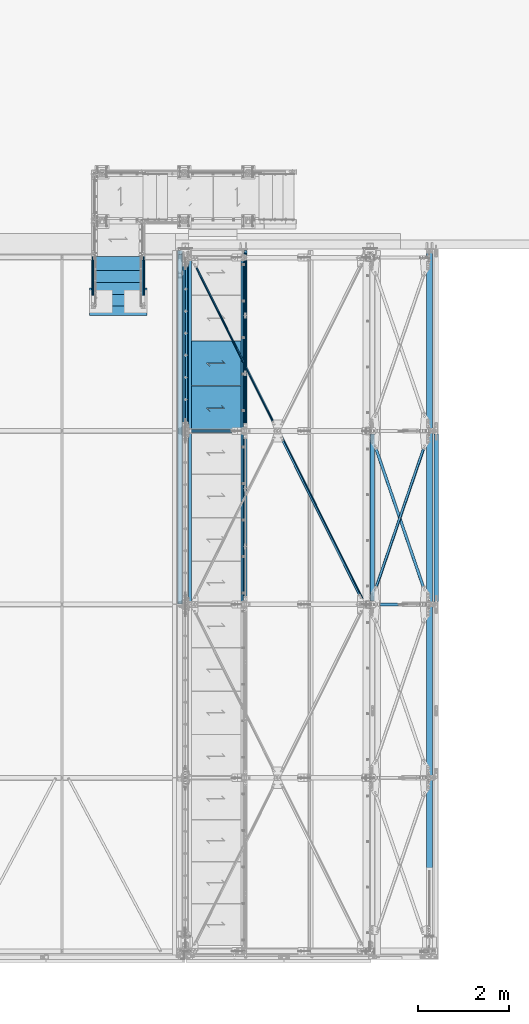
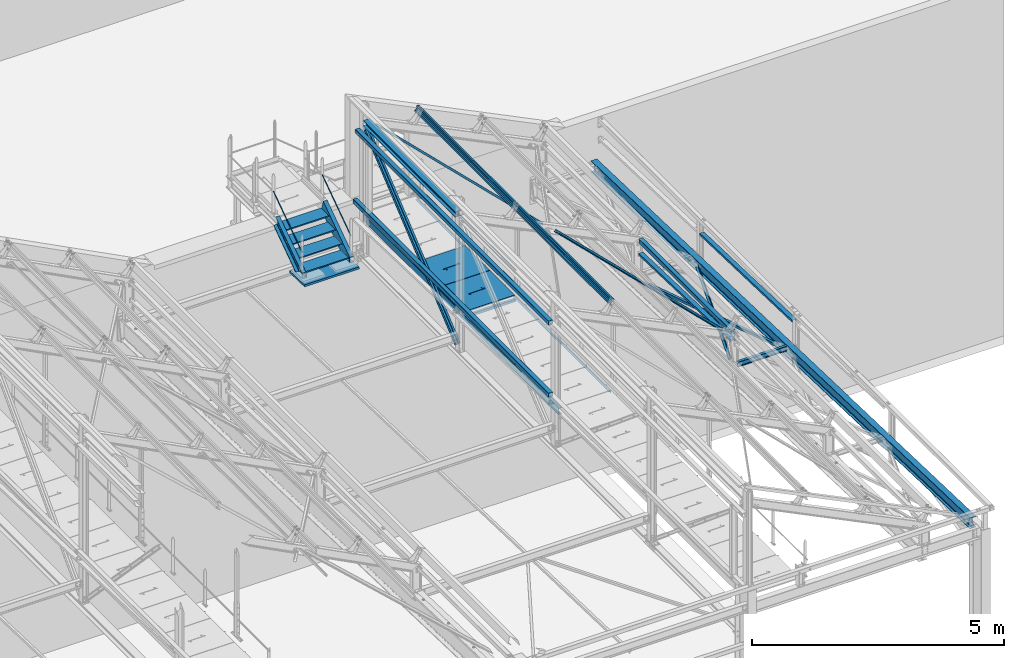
# One storey, part 57 of 362: 24 beams, 6 members, 30 elements without a shape of their own.
"""IFC2X3 building model written with IfcOpenShell, lengths in millimetres."""

from ifc_helpers import new_model, si_unit, frame, origin_with_axes, origin_2d_with_axis, place, context, subcontext, project, spatial, polyline, rectangle, hollow_rectangle, hollow_circle, i_section, l_section, u_section, outline, extrude, boolean, clip, halfspace, material, type_object, element, aggregate, save


model = new_model("IFC2X3")

# Units and contexts
model_context = context("Model", 3, precision=1e-05, world=origin_with_axes())
body_context = subcontext(model_context, "Body", "Model", "MODEL_VIEW")
ifc_project = project(units=[si_unit("LENGTHUNIT", "METRE", prefix="MILLI"), si_unit("AREAUNIT", "SQUARE_METRE"), si_unit("VOLUMEUNIT", "CUBIC_METRE"), si_unit("MASSUNIT", "GRAM", prefix="KILO"), si_unit("TIMEUNIT", "SECOND"), si_unit("PLANEANGLEUNIT", "RADIAN"), si_unit("SOLIDANGLEUNIT", "STERADIAN"), si_unit("THERMODYNAMICTEMPERATUREUNIT", "DEGREE_CELSIUS"), si_unit("LUMINOUSINTENSITYUNIT", "LUMEN")], contexts=[model_context])

# Site, building, storey
site_placement = place(None, origin_with_axes())
site = spatial("IfcSite", under=ifc_project, at=site_placement, Name="Undefined", CompositionType="ELEMENT")
building_placement = place(site_placement, origin_with_axes())
building = spatial("IfcBuilding", under=site, at=building_placement, Name="Undefined", CompositionType="ELEMENT")
storey_placement = place(building_placement, origin_with_axes())
storey = spatial("IfcBuildingStorey", under=building, at=storey_placement, Name="Undefined", CompositionType="ELEMENT", Elevation=0.0)

# Assembly, member
assembly_1_placement = place(storey_placement, origin_with_axes())
assembly_1 = element("IfcElementAssembly", 1, at=assembly_1_placement, inside=storey, Name="MAIN COURANTE", AssemblyPlace="NOTDEFINED", PredefinedType="NOTDEFINED")
ifc_material_1 = material(Name="Undefined/S235-E24")
member_type_1 = type_object("IfcMemberType", Name="TUBE-21.3*2", PredefinedType="NOTDEFINED")
member_1_placement = place(assembly_1_placement, frame((33369.9936634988, 14144.9998536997, 8651.13839395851), z_axis=(0.999999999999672, -6.66011674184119e-07, -4.61008081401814e-07), x_axis=(0.0, 0.822192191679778, 0.56920997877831)))
member_1 = element("IfcMember", 2, at=member_1_placement, type_object=member_type_1, material=ifc_material_1, Name="LISSE", ObjectType="TUBE-21.3*2", context=body_context, shape_type="Clipping", body=[
    clip(clip(extrude(hollow_circle(Radius=10.64999962, WallThickness=2.0, at=origin_2d_with_axis()), frame((1395.35433691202, -1.13686837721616e-12, 7.38694435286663e-20), z_axis=(-1.0, 0.0, 0.0), x_axis=(0.0, -1.0, 0.0)), (0.0, 0.0, 1.0), 1404.17), halfspace(frame((1387.78549896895, 10.5802584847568, -0.00112410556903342), z_axis=(-0.822192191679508, 0.569209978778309, 6.66011673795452e-07), x_axis=(-0.569209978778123, -0.822192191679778, 4.61008086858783e-07)), True)), halfspace(frame((16.4615054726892, 14.9935154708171, -1.33328576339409e-05), z_axis=(0.822192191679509, -0.569209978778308, -6.66011673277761e-07), x_axis=(0.0, 0.0, -1.0)), True)),
])
aggregate(assembly_1, [member_1])

assembly_2_placement = place(storey_placement, origin_with_axes())
assembly_2 = element("IfcElementAssembly", 3, at=assembly_2_placement, inside=storey, Name="MAIN COURANTE", AssemblyPlace="NOTDEFINED", PredefinedType="NOTDEFINED")
member_2_placement = place(assembly_2_placement, frame((32249.9863365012, 14144.9998536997, 8651.13839395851), z_axis=(-0.999999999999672, -6.66011674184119e-07, -4.61008081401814e-07), x_axis=(0.0, 0.822192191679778, 0.56920997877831)))
member_2 = element("IfcMember", 4, at=member_2_placement, type_object=member_type_1, material=ifc_material_1, Name="LISSE", ObjectType="TUBE-21.3*2", context=body_context, shape_type="Clipping", body=[
    clip(clip(extrude(hollow_circle(Radius=10.64999962, WallThickness=2.0, at=origin_2d_with_axis()), frame((1395.35433691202, -1.13686837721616e-12, 7.38694435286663e-20), z_axis=(-1.0, 0.0, 0.0), x_axis=(0.0, -1.0, 0.0)), (0.0, 0.0, 1.0), 1404.17), halfspace(frame((1387.78549896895, -10.5802584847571, -0.00112410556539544), z_axis=(-0.822192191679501, -0.569209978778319, 6.66011673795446e-07), x_axis=(0.0, 0.0, -1.0)), True)), halfspace(frame((16.4615054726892, -14.9935154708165, -1.33328503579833e-05), z_axis=(0.822192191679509, 0.569209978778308, -6.6601167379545e-07), x_axis=(-0.569209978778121, 0.822192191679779, 4.61008079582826e-07)), True)),
])
aggregate(assembly_2, [member_2])

# Assembly, beam
assembly_3_placement = place(storey_placement, origin_with_axes())
assembly_3 = element("IfcElementAssembly", 5, at=assembly_3_placement, inside=storey, Name="SUPPORT", AssemblyPlace="NOTDEFINED", PredefinedType="NOTDEFINED")
beam_type_1 = type_object("IfcBeamType", Name="L50*5", PredefinedType="NOTDEFINED")
beam_1_placement = place(assembly_3_placement, frame((35521.4917140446, 15280.0000894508, 8074.99999999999), z_axis=(-1.0, 0.0, 0.0), x_axis=(0.0, -1.0, 0.0)))
beam_1 = element("IfcBeam", 6, at=beam_1_placement, type_object=beam_type_1, material=ifc_material_1, Name="SUPPORT", ObjectType="L50*5", context=body_context, shape_type="SweptSolid", body=[
    extrude(l_section(Depth=50.0, Width=50.0, Thickness=5.0, FilletRadius=7.0, EdgeRadius=3.5, at=origin_2d_with_axis()), frame((7675.0000889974, 0.0, 0.0), z_axis=(-1.0, 0.0, 0.0), x_axis=(0.0, -1.0, 0.0)), (0.0, 0.0, 1.0), 7675.0),
])
aggregate(assembly_3, [beam_1])

assembly_4_placement = place(storey_placement, origin_with_axes())
assembly_4 = element("IfcElementAssembly", 7, at=assembly_4_placement, inside=storey, AssemblyPlace="NOTDEFINED", PredefinedType="NOTDEFINED")
beam_2_placement = place(assembly_4_placement, frame((36317.9926938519, 11401.2120833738, 9504.82868148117), z_axis=(0.44122107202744, 0.0, 0.89739844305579), x_axis=(0.435090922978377, -0.874605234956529, -0.213919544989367)))
beam_2 = element("IfcBeam", 8, at=beam_2_placement, type_object=beam_type_1, material=ifc_material_1, Name="STABILITE CVT", ObjectType="L50*5", context=body_context, shape_type="Clipping", body=[
    clip(clip(extrude(l_section(Depth=50.0, Width=50.0, Thickness=5.0, FilletRadius=7.0, EdgeRadius=3.5, at=origin_2d_with_axis()), frame((4267.3908831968, 5.92219451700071e-14, 0.0), z_axis=(-1.0, 0.0, 0.0), x_axis=(0.0, -1.0, 0.0)), (0.0, 0.0, 1.0), 4189.97), halfspace(frame((4208.92568695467, -25.0001615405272, -24.9987599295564), z_axis=(-1.0, 0.0, 0.0), x_axis=(0.0, 1.0, 0.0)), True)), halfspace(frame((135.890671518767, 25.0000024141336, -24.9993826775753), z_axis=(-1.0, 0.0, 0.0), x_axis=(0.0, 0.0, 1.0)), False)),
])
aggregate(assembly_4, [beam_2])

assembly_5_placement = place(storey_placement, origin_with_axes())
assembly_5 = element("IfcElementAssembly", 9, at=assembly_5_placement, inside=storey, AssemblyPlace="NOTDEFINED", PredefinedType="NOTDEFINED")
beam_3_placement = place(assembly_5_placement, frame((34423.6781424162, 15198.7879095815, 10436.2000511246), z_axis=(0.784869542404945, 0.484835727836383, -0.385893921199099), x_axis=(0.435090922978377, -0.874605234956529, -0.213919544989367)))
beam_3 = element("IfcBeam", 10, at=beam_3_placement, type_object=beam_type_1, material=ifc_material_1, Name="STABILITE CVT", ObjectType="L50*5", context=body_context, shape_type="Clipping", body=[
    clip(clip(extrude(l_section(Depth=50.0, Width=50.0, Thickness=5.0, FilletRadius=7.0, EdgeRadius=3.5, at=origin_2d_with_axis()), frame((4262.41802207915, -1.18305865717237e-13, 3.54917597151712e-13), z_axis=(-1.0, 0.0, 0.0), x_axis=(0.0, -1.0, 0.0)), (0.0, 0.0, 1.0), 4180.02), halfspace(frame((4208.92600506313, 24.999422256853, 25.0000000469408), z_axis=(-1.0, 0.0, 0.0), x_axis=(0.0, -1.0, 0.0)), True)), halfspace(frame((135.890867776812, 25.0000450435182, 25.0002856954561), z_axis=(1.0, 0.0, 0.0), x_axis=(0.0, 0.0, -1.0)), True)),
])
aggregate(assembly_5, [beam_3])

# Assembly, member
assembly_6_placement = place(storey_placement, origin_with_axes())
assembly_6 = element("IfcElementAssembly", 11, at=assembly_6_placement, inside=storey, AssemblyPlace="NOTDEFINED", PredefinedType="NOTDEFINED")
ifc_material_2 = material(Name="Undefined/S275-E28")
member_type_2 = type_object("IfcMemberType", Name="UPN260", PredefinedType="NOTDEFINED")
member_3_placement = place(assembly_6_placement, frame((33354.9957050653, 15220.1081967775, 8803.11488296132), z_axis=(-2.38199999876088e-06, 0.569209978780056, -0.822192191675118), x_axis=(-1.71699999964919e-06, -0.822192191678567, -0.569209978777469)))
member_3 = element("IfcMember", 12, at=member_3_placement, type_object=member_type_2, material=ifc_material_2, Name="LIMON", ObjectType="UPN260", context=body_context, shape_type="Clipping", body=[
    clip(clip(clip(extrude(u_section(Depth=260.0, FlangeWidth=90.0, WebThickness=10.0, FlangeThickness=14.0, FilletRadius=14.0, EdgeRadius=7.0, FlangeSlope=0.0798299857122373, at=origin_2d_with_axis()), frame((1532.05974941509, 3.24426271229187e-19, 1.50656932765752e-12), z_axis=(-1.0, 0.0, 0.0), x_axis=(0.0, -1.0, 0.0)), (0.0, 0.0, 1.0), 1652.65), halfspace(frame((1475.10561376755, -44.9999999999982, -130.0), z_axis=(0.594754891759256, -2.93590080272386e-06, 0.803907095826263), x_axis=(-0.803907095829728, -3.97667463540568e-10, 0.594754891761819)), False)), halfspace(frame((1280.85769771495, 106.407624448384, -129.999853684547), z_axis=(-0.822192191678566, 5.58458236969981e-08, 0.569209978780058), x_axis=(0.569209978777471, -2.93579533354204e-06, 0.822192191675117)), True)), halfspace(frame((81.2187427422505, 545.001446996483, 130.001191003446), z_axis=(0.954513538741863, -9.28664575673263e-07, -0.298167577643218), x_axis=(1.71699999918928e-06, 0.999999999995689, 2.38199999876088e-06)), True)),
])
aggregate(assembly_6, [member_3])

assembly_7_placement = place(storey_placement, origin_with_axes())
assembly_7 = element("IfcElementAssembly", 13, at=assembly_7_placement, inside=storey, AssemblyPlace="NOTDEFINED", PredefinedType="NOTDEFINED")
member_4_placement = place(assembly_7_placement, frame((32265.0064946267, 14166.9970857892, 8074.0379599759), z_axis=(2.38199999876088e-06, 0.569209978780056, -0.822192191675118), x_axis=(-1.7169999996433e-06, 0.822192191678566, 0.56920997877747)))
member_4 = element("IfcMember", 14, at=member_4_placement, type_object=member_type_2, material=ifc_material_2, Name="LIMON", ObjectType="UPN260", context=body_context, shape_type="Clipping", body=[
    clip(clip(clip(extrude(u_section(Depth=260.0, FlangeWidth=90.0, WebThickness=10.0, FlangeThickness=14.0, FilletRadius=14.0, EdgeRadius=7.0, FlangeSlope=0.0798299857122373, at=origin_2d_with_axis()), frame((1401.45085429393, -1.81898940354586e-12, 2.27373675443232e-13), z_axis=(-1.0, 0.0, 0.0), x_axis=(0.0, -1.0, 0.0)), (0.0, 0.0, 1.0), 1652.65), halfspace(frame((-194.248465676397, 44.9999999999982, -130.0), z_axis=(-0.594754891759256, -2.93590079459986e-06, 0.803907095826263), x_axis=(0.803907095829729, -3.97667463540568e-10, 0.594754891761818)), False)), halfspace(frame((1199.63884956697, 544.98906444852, 130.001190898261), z_axis=(-0.954513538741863, -9.28664579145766e-07, -0.298167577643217), x_axis=(1.71700000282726e-06, -0.999999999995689, -2.38199999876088e-06)), True)), halfspace(frame((-0.000105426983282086, 106.407623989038, -129.999853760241), z_axis=(0.822192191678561, 5.58458236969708e-08, 0.569209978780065), x_axis=(1.71700000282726e-06, -0.999999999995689, -2.38199999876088e-06)), True)),
])
aggregate(assembly_7, [member_4])

# Assembly, beam
assembly_8_placement = place(storey_placement, origin_with_axes())
assembly_8 = element("IfcElementAssembly", 15, at=assembly_8_placement, inside=storey, Name="Steel Assembly", AssemblyPlace="NOTDEFINED", PredefinedType="NOTDEFINED")
ifc_material_3 = material(Name="MISCELLANEOUS/POLYURETHANE")
beam_type_2 = type_object("IfcBeamType", Name="PL50*1250", PredefinedType="NOTDEFINED")
beam_4_placement = place(assembly_8_placement, frame((32809.9947340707, 14532.1706378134, 7968.49328384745), z_axis=(-1.0, 0.0, 0.0), x_axis=(0.0, -0.999506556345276, 0.031410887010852)))
beam_4 = element("IfcBeam", 16, at=beam_4_placement, type_object=beam_type_2, material=ifc_material_3, Name="STYRODUR", ObjectType="PL50*1250", context=body_context, shape_type="SweptSolid", body=[
    extrude(rectangle(XDim=50.0, YDim=1250.0, at=origin_2d_with_axis()), frame((600.000000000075, -4.16333634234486e-15, 0.0), z_axis=(-1.0, 0.0, 0.0), x_axis=(0.0, -1.0, 0.0)), (0.0, 0.0, 1.0), 600.0),
])
aggregate(assembly_8, [beam_4])

assembly_9_placement = place(storey_placement, origin_with_axes())
assembly_9 = element("IfcElementAssembly", 17, at=assembly_9_placement, inside=storey, Name="MARCHE", AssemblyPlace="NOTDEFINED", PredefinedType="NOTDEFINED")
beam_type_3 = type_object("IfcBeamType", Name="PL30*994", PredefinedType="NOTDEFINED")
beam_5_placement = place(assembly_9_placement, frame((32809.9938089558, 14444.9997910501, 8145.0000000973), z_axis=(-1.0, 0.0, 0.0), x_axis=(0.0, -1.0, 0.0)))
beam_5 = element("IfcBeam", 18, at=beam_5_placement, type_object=beam_type_3, material=ifc_material_1, Name="MARCHE", ObjectType="PL30*994", context=body_context, shape_type="SweptSolid", body=[
    extrude(rectangle(XDim=30.0, YDim=994.0, at=origin_2d_with_axis()), frame((310.0, 0.0, 0.0), z_axis=(-1.0, 0.0, 0.0), x_axis=(0.0, -1.0, 0.0)), (0.0, 0.0, 1.0), 310.0),
])
aggregate(assembly_9, [beam_5])

assembly_10_placement = place(storey_placement, origin_with_axes())
assembly_10 = element("IfcElementAssembly", 19, at=assembly_10_placement, inside=storey, Name="MARCHE", AssemblyPlace="NOTDEFINED", PredefinedType="NOTDEFINED")
beam_6_placement = place(assembly_10_placement, frame((32809.9938089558, 14704.9997910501, 8325.00000007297), z_axis=(-1.0, 0.0, 0.0), x_axis=(0.0, -1.0, 0.0)))
beam_6 = element("IfcBeam", 20, at=beam_6_placement, type_object=beam_type_3, material=ifc_material_1, Name="MARCHE", ObjectType="PL30*994", context=body_context, shape_type="SweptSolid", body=[
    extrude(rectangle(XDim=30.0, YDim=994.0, at=origin_2d_with_axis()), frame((310.0, 0.0, 0.0), z_axis=(-1.0, 0.0, 0.0), x_axis=(0.0, -1.0, 0.0)), (0.0, 0.0, 1.0), 310.0),
])
aggregate(assembly_10, [beam_6])

assembly_11_placement = place(storey_placement, origin_with_axes())
assembly_11 = element("IfcElementAssembly", 21, at=assembly_11_placement, inside=storey, Name="MARCHE", AssemblyPlace="NOTDEFINED", PredefinedType="NOTDEFINED")
beam_7_placement = place(assembly_11_placement, frame((32809.9938089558, 14964.9997910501, 8505.00000004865), z_axis=(-1.0, 0.0, 0.0), x_axis=(0.0, -1.0, 0.0)))
beam_7 = element("IfcBeam", 22, at=beam_7_placement, type_object=beam_type_3, material=ifc_material_1, Name="MARCHE", ObjectType="PL30*994", context=body_context, shape_type="SweptSolid", body=[
    extrude(rectangle(XDim=30.0, YDim=994.0, at=origin_2d_with_axis()), frame((310.0, 0.0, 0.0), z_axis=(-1.0, 0.0, 0.0), x_axis=(0.0, -1.0, 0.0)), (0.0, 0.0, 1.0), 310.0),
])
aggregate(assembly_11, [beam_7])

assembly_12_placement = place(storey_placement, origin_with_axes())
assembly_12 = element("IfcElementAssembly", 23, at=assembly_12_placement, inside=storey, Name="MARCHE", AssemblyPlace="NOTDEFINED", PredefinedType="NOTDEFINED")
beam_8_placement = place(assembly_12_placement, frame((32809.9938089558, 15224.9997910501, 8685.0), z_axis=(-1.0, 0.0, 0.0), x_axis=(0.0, -1.0, 0.0)))
beam_8 = element("IfcBeam", 24, at=beam_8_placement, type_object=beam_type_3, material=ifc_material_1, Name="MARCHE", ObjectType="PL30*994", context=body_context, shape_type="SweptSolid", body=[
    extrude(rectangle(XDim=30.0, YDim=994.0, at=origin_2d_with_axis()), frame((310.0, 0.0, 0.0), z_axis=(-1.0, 0.0, 0.0), x_axis=(0.0, -1.0, 0.0)), (0.0, 0.0, 1.0), 310.0),
])
aggregate(assembly_12, [beam_8])

assembly_13_placement = place(storey_placement, origin_with_axes())
assembly_13 = element("IfcElementAssembly", 25, at=assembly_13_placement, inside=storey, AssemblyPlace="NOTDEFINED", PredefinedType="NOTDEFINED")
beam_type_4 = type_object("IfcBeamType", Name="L60*6", PredefinedType="NOTDEFINED")
beam_9_placement = place(assembly_13_placement, frame((39627.1613893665, 7596.0134115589, 7655.20904241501), z_axis=(0.946212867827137, 0.323385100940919, -0.0101629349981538), x_axis=(-0.323544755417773, 0.945745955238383, -0.0297216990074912)))
beam_9 = element("IfcBeam", 26, at=beam_9_placement, type_object=beam_type_4, material=ifc_material_1, Name="STABILITE CVT", ObjectType="L60*6", context=body_context, shape_type="Clipping", body=[
    clip(clip(extrude(l_section(Depth=60.0, Width=60.0, Thickness=6.0, FilletRadius=8.0, EdgeRadius=4.0, at=origin_2d_with_axis()), frame((3750.95319410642, 9.35522168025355e-13, 7.53643561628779e-12), z_axis=(-1.0, 0.0, 0.0), x_axis=(0.0, -1.0, 0.0)), (0.0, 0.0, 1.0), 3483.91), halfspace(frame((3710.26468355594, 60.0022534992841, -30.0000080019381), z_axis=(-1.0, 0.0, 0.0), x_axis=(0.0, 1.0, 0.0)), True)), halfspace(frame((307.727514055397, 59.9989420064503, 29.9999672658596), z_axis=(1.0, 0.0, 0.0), x_axis=(0.0, 1.0, 0.0)), True)),
])
aggregate(assembly_13, [beam_9])

assembly_14_placement = place(storey_placement, origin_with_axes())
assembly_14 = element("IfcElementAssembly", 27, at=assembly_14_placement, inside=storey, AssemblyPlace="NOTDEFINED", PredefinedType="NOTDEFINED")
beam_10_placement = place(assembly_14_placement, frame((38332.8386386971, 7598.08651945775, 7721.17641887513), z_axis=(-0.946212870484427, 0.323385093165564, -0.0101629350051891), x_axis=(0.32354466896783, 0.945745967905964, -0.0297222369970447)))
beam_10 = element("IfcBeam", 28, at=beam_10_placement, type_object=beam_type_4, material=ifc_material_1, Name="STABILITE CVT", ObjectType="L60*6", context=body_context, shape_type="Clipping", body=[
    clip(clip(extrude(l_section(Depth=60.0, Width=60.0, Thickness=6.0, FilletRadius=8.0, EdgeRadius=4.0, at=origin_2d_with_axis()), frame((3749.34946230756, -1.81898940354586e-12, 7.25807138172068e-12), z_axis=(-1.0, 0.0, 0.0), x_axis=(0.0, -1.0, 0.0)), (0.0, 0.0, 1.0), 3480.71), halfspace(frame((3710.26467476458, -60.0022405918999, -30.0000246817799), z_axis=(1.0, 0.0, 0.0), x_axis=(-8.13000000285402e-07, -0.999999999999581, 4.20999999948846e-07)), False)), halfspace(frame((307.727505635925, -59.9989526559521, 29.9999720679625), z_axis=(-1.0, 0.0, 0.0), x_axis=(-8.13000000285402e-07, -0.999999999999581, 4.20999999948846e-07)), False)),
])
aggregate(assembly_14, [beam_10])

assembly_15_placement = place(storey_placement, origin_with_axes())
assembly_15 = element("IfcElementAssembly", 29, at=assembly_15_placement, inside=storey, Name="LISSE", AssemblyPlace="NOTDEFINED", PredefinedType="NOTDEFINED")
beam_type_5 = type_object("IfcBeamType", Name="UPF-100*50*4", PredefinedType="NOTDEFINED")
beam_11_placement = place(assembly_15_placement, frame((38380.0000000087, 7600.0, 8291.42237510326), z_axis=(1.0, 0.0, 0.0), x_axis=(0.0, 0.99950644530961, -0.0314144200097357)))
beam_11 = element("IfcBeam", 30, at=beam_11_placement, type_object=beam_type_5, material=ifc_material_1, Name="LISSE CONTREBARDAGE", ObjectType="UPF-100*50*4", context=body_context, shape_type="Clipping", body=[
    clip(clip(extrude(u_section(Depth=100.0, FlangeWidth=50.0, WebThickness=4.0, FlangeThickness=4.0, at=origin_2d_with_axis()), frame((3738.43154409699, 2.59405798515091e-14, 0.0), z_axis=(-1.0, 0.0, 0.0), x_axis=(0.0, -1.0, 0.0)), (0.0, 0.0, 1.0), 3674.99), halfspace(frame((3731.98221168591, 154.697322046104, 49.9999999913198), z_axis=(-0.999506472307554, -0.0314135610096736, 0.0), x_axis=(0.0, 0.0, 1.0)), True)), halfspace(frame((63.7935542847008, 39.4064997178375, 49.9999999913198), z_axis=(-0.999506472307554, -0.0314135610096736, 0.0), x_axis=(0.0, 0.0, 1.0)), False)),
])
aggregate(assembly_15, [beam_11])

assembly_16_placement = place(storey_placement, origin_with_axes())
assembly_16 = element("IfcElementAssembly", 31, at=assembly_16_placement, inside=storey, Name="LISSE", AssemblyPlace="NOTDEFINED", PredefinedType="NOTDEFINED")
beam_12_placement = place(assembly_16_placement, frame((39775.0000000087, 7599.20357783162, 8291.42237510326), z_axis=(1.0, 0.0, 0.0), x_axis=(3.14103090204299e-11, 0.999506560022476, -0.0314107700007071)))
beam_12 = element("IfcBeam", 32, at=beam_12_placement, type_object=beam_type_5, material=ifc_material_1, Name="LISSE CONTREBARDAGE", ObjectType="UPF-100*50*4", context=body_context, shape_type="Clipping", body=[
    clip(clip(extrude(u_section(Depth=100.0, FlangeWidth=50.0, WebThickness=4.0, FlangeThickness=4.0, at=origin_2d_with_axis()), frame((3739.22774866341, 0.0, 0.0), z_axis=(-1.0, 0.0, 0.0), x_axis=(0.0, -1.0, 0.0)), (0.0, 0.0, 1.0), 3674.99), halfspace(frame((3732.77880328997, 154.708769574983, 49.9999999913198), z_axis=(-0.999506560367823, -0.0314107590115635, 0.0), x_axis=(0.0, 0.0, 1.0)), True)), halfspace(frame((64.5897267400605, 39.4312840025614, 49.9999999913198), z_axis=(-0.999506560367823, -0.0314107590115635, 0.0), x_axis=(0.0, 0.0, 1.0)), False)),
])
aggregate(assembly_16, [beam_12])

assembly_17_placement = place(storey_placement, origin_with_axes())
assembly_17 = element("IfcElementAssembly", 33, at=assembly_17_placement, inside=storey, Name="LISSE", AssemblyPlace="NOTDEFINED", PredefinedType="NOTDEFINED")
beam_type_6 = type_object("IfcBeamType", Name="TUBE-C-100*100*4", PredefinedType="NOTDEFINED")
beam_13_placement = place(assembly_17_placement, frame((34163.5000004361, 7604.99999901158, 10244.999999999), z_axis=(0.0, 0.0, -1.0), x_axis=(0.0, 1.0, 0.0)))
beam_13 = element("IfcBeam", 34, at=beam_13_placement, type_object=beam_type_6, material=ifc_material_1, Name="LISSE ACROTERE", ObjectType="TUBE-C-100*100*4", context=body_context, shape_type="SweptSolid", body=[
    extrude(hollow_rectangle(XDim=100.0, YDim=100.0, WallThickness=4.0, InnerFilletRadius=4.0, OuterFilletRadius=8.0, at=origin_2d_with_axis()), frame((7664.99999999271, 0.0, 0.0), z_axis=(-1.0, 0.0, 0.0), x_axis=(0.0, -1.0, 0.0)), (0.0, 0.0, 1.0), 7665.0),
])
aggregate(assembly_17, [beam_13])

assembly_18_placement = place(storey_placement, origin_with_axes())
assembly_18 = element("IfcElementAssembly", 35, at=assembly_18_placement, inside=storey, Name="LISSE", AssemblyPlace="NOTDEFINED", PredefinedType="NOTDEFINED")
beam_14_placement = place(assembly_18_placement, frame((34163.5, 7605.0, 8500.0), z_axis=(0.0, 0.0, 1.0), x_axis=(0.0, 1.0, 0.0)))
beam_14 = element("IfcBeam", 36, at=beam_14_placement, type_object=beam_type_6, material=ifc_material_1, Name="LISSE ACROTERE", ObjectType="TUBE-C-100*100*4", context=body_context, shape_type="SweptSolid", body=[
    extrude(hollow_rectangle(XDim=100.0, YDim=100.0, WallThickness=4.0, InnerFilletRadius=4.0, OuterFilletRadius=8.0, at=origin_2d_with_axis()), frame((7755.0, 0.0, 0.0), z_axis=(-1.0, 0.0, 0.0), x_axis=(0.0, -1.0, 0.0)), (0.0, 0.0, 1.0), 7755.0),
])
aggregate(assembly_18, [beam_14])

assembly_19_placement = place(storey_placement, origin_with_axes())
assembly_19 = element("IfcElementAssembly", 37, at=assembly_19_placement, inside=storey, Name="LISSE", AssemblyPlace="NOTDEFINED", PredefinedType="NOTDEFINED")
beam_15_placement = place(assembly_19_placement, frame((38380.0, 7670.0, 8500.0), z_axis=(0.0, 0.0, 1.0), x_axis=(0.0, 1.0, 0.0)))
beam_15 = element("IfcBeam", 38, at=beam_15_placement, type_object=beam_type_6, material=ifc_material_1, Name="LISSE ACROTERE", ObjectType="TUBE-C-100*100*4", context=body_context, shape_type="SweptSolid", body=[
    extrude(hollow_rectangle(XDim=100.0, YDim=100.0, WallThickness=4.0, InnerFilletRadius=4.0, OuterFilletRadius=8.0, at=origin_2d_with_axis()), frame((3660.0, 0.0, 0.0), z_axis=(-1.0, 0.0, 0.0), x_axis=(0.0, -1.0, 0.0)), (0.0, 0.0, 1.0), 3660.0),
])
aggregate(assembly_19, [beam_15])

assembly_20_placement = place(storey_placement, origin_with_axes())
assembly_20 = element("IfcElementAssembly", 39, at=assembly_20_placement, inside=storey, AssemblyPlace="NOTDEFINED", PredefinedType="NOTDEFINED")
beam_type_7 = type_object("IfcBeamType", Name="TOLE30*980", PredefinedType="NOTDEFINED")
beam_16_placement = place(assembly_20_placement, frame((35536.4915949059, 13375.0003144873, 8115.0), z_axis=(0.0, 0.0, 1.0), x_axis=(-1.0, 0.0, 0.0)))
beam_16 = element("IfcBeam", 40, at=beam_16_placement, type_object=beam_type_7, material=ifc_material_1, Name="CAILLEBOTIS", ObjectType="TOLE30*980", context=body_context, shape_type="CSG", body=[
    boolean("DIFFERENCE", extrude(outline(polyline([(0.0, 0.0), (1179.99169921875, 0.0), (1179.99169921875, 980.0), (-9.39995516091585e-07, 980.0), (0.0, 0.0)])), frame((0.0, 0.0, -15.0), z_axis=(0.0, 0.0, 1.0), x_axis=(1.0, 0.0, 0.0)), (0.0, 0.0, 1.0), 30.0), extrude(outline(polyline([(0.0, 0.0), (9.99999999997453, 6.91215973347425e-11), (10.0000000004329, 75.8578643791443), (282.842712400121, -196.984848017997), (282.842712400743, -96.9848480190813), (272.842712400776, -96.9848480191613), (272.842712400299, -172.842712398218), (0.0, 100.0), (0.0, 0.0)])), frame((724.286946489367, 555.710676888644, -17.5), z_axis=(0.0, 0.0, 1.0), x_axis=(-0.707106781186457, -0.707106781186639, 0.0)), (0.0, 0.0, 1.0), 35.0)),
])
aggregate(assembly_20, [beam_16])

assembly_21_placement = place(storey_placement, origin_with_axes())
assembly_21 = element("IfcElementAssembly", 41, at=assembly_21_placement, inside=storey, AssemblyPlace="NOTDEFINED", PredefinedType="NOTDEFINED")
beam_17_placement = place(assembly_21_placement, frame((35536.4915949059, 12385.0003192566, 8115.0), z_axis=(0.0, 0.0, 1.0), x_axis=(-1.0, 0.0, 0.0)))
beam_17 = element("IfcBeam", 42, at=beam_17_placement, type_object=beam_type_7, material=ifc_material_1, Name="CAILLEBOTIS", ObjectType="TOLE30*980", context=body_context, shape_type="CSG", body=[
    boolean("DIFFERENCE", extrude(outline(polyline([(0.0, 0.0), (1179.99169921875, 0.0), (1179.99169921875, 980.0), (-9.39995516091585e-07, 980.0), (0.0, 0.0)])), frame((0.0, 0.0, -15.0), z_axis=(0.0, 0.0, 1.0), x_axis=(1.0, 0.0, 0.0)), (0.0, 0.0, 1.0), 30.0), extrude(outline(polyline([(0.0, 0.0), (9.99999999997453, 6.91215973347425e-11), (10.0000000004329, 75.8578643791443), (282.842712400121, -196.984848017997), (282.842712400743, -96.9848480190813), (272.842712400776, -96.9848480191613), (272.842712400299, -172.842712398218), (0.0, 100.0), (0.0, 0.0)])), frame((724.286946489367, 555.710676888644, -17.5), z_axis=(0.0, 0.0, 1.0), x_axis=(-0.707106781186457, -0.707106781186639, 0.0)), (0.0, 0.0, 1.0), 35.0)),
])
aggregate(assembly_21, [beam_17])

assembly_22_placement = place(storey_placement, origin_with_axes())
assembly_22 = element("IfcElementAssembly", 43, at=assembly_22_placement, inside=storey, Name="MAIN COURANTE", AssemblyPlace="NOTDEFINED", PredefinedType="NOTDEFINED")
beam_type_8 = type_object("IfcBeamType", Name="TUBE-26.9*2", PredefinedType="NOTDEFINED")
beam_18_placement = place(assembly_22_placement, frame((35593.9917225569, 15300.0034325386, 8673.79999660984), z_axis=(0.0, 0.0, 1.0), x_axis=(0.0, -1.0, 0.0)))
beam_18 = element("IfcBeam", 44, at=beam_18_placement, type_object=beam_type_8, material=ifc_material_1, Name="LISSE", ObjectType="TUBE-26.9*2", context=body_context, shape_type="SweptSolid", body=[
    extrude(hollow_circle(Radius=13.44999981, WallThickness=2.0, at=origin_2d_with_axis()), frame((3845.0034383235, -7.91283071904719e-22, 7.95128074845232e-22), z_axis=(-1.0, 0.0, 0.0), x_axis=(0.0, -1.0, 0.0)), (0.0, 0.0, 1.0), 3845.0),
])
aggregate(assembly_22, [beam_18])

assembly_23_placement = place(storey_placement, origin_with_axes())
assembly_23 = element("IfcElementAssembly", 45, at=assembly_23_placement, inside=storey, AssemblyPlace="NOTDEFINED", PredefinedType="NOTDEFINED")
beam_type_9 = type_object("IfcBeamType", Name="HEA140", PredefinedType="NOTDEFINED")
beam_19_placement = place(assembly_23_placement, frame((34283.5, 15125.0, 10489.5), z_axis=(0.0, 0.0, 1.0), x_axis=(0.0, -1.0, 0.0)))
beam_19 = element("IfcBeam", 46, at=beam_19_placement, type_object=beam_type_9, material=ifc_material_2, Name="LONGERON", ObjectType="HEA140", context=body_context, shape_type="SweptSolid", body=[
    extrude(i_section(OverallWidth=140.0, OverallDepth=133.0, WebThickness=5.5, FlangeThickness=8.5, FilletRadius=12.0, at=origin_2d_with_axis()), frame((3650.0, 0.0, 0.0), z_axis=(-1.0, 0.0, 0.0), x_axis=(0.0, -1.0, 0.0)), (0.0, 0.0, 1.0), 3650.0),
])
aggregate(assembly_23, [beam_19])

assembly_24_placement = place(storey_placement, origin_with_axes())
assembly_24 = element("IfcElementAssembly", 47, at=assembly_24_placement, inside=storey, AssemblyPlace="NOTDEFINED", PredefinedType="NOTDEFINED")
beam_type_10 = type_object("IfcBeamType", Name="UPF-150*70*5", PredefinedType="NOTDEFINED")
beam_20_placement = place(assembly_24_placement, frame((34381.4999458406, 7605.00000239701, 8025.0), z_axis=(0.0, 0.0, 1.0), x_axis=(0.0, 1.0, 0.0)))
beam_20 = element("IfcBeam", 48, at=beam_20_placement, type_object=beam_type_10, material=ifc_material_1, Name="LONGERON", ObjectType="UPF-150*70*5", context=body_context, shape_type="SweptSolid", body=[
    extrude(u_section(Depth=150.0, FlangeWidth=70.0, WebThickness=5.0, FlangeThickness=5.0, at=origin_2d_with_axis()), frame((7755.00015882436, 0.0, 0.0), z_axis=(-1.0, 0.0, 0.0), x_axis=(0.0, -1.0, 0.0)), (0.0, 0.0, 1.0), 7755.0),
])
aggregate(assembly_24, [beam_20])

assembly_25_placement = place(storey_placement, origin_with_axes())
assembly_25 = element("IfcElementAssembly", 49, at=assembly_25_placement, inside=storey, Name="PANNE SHED", AssemblyPlace="NOTDEFINED", PredefinedType="NOTDEFINED")
beam_type_11 = type_object("IfcBeamType", Name="B140/150", PredefinedType="NOTDEFINED")
beam_21_placement = place(assembly_25_placement, frame((35571.3221700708, 7605.00007961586, 10245.2429546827), z_axis=(0.44122107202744, 0.0, 0.89739844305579), x_axis=(0.0, 1.0, 0.0)))
beam_21 = element("IfcBeam", 50, at=beam_21_placement, type_object=beam_type_11, material=ifc_material_1, Name="PANNE SHED", ObjectType="B140/150", context=body_context, shape_type="SweptSolid", body=[
    extrude(outline(polyline([(-27.9999999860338, 36.0000000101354), (-27.999999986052, 70.0000000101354), (28.0000000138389, 70.0000000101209), (28.0000000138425, 58.0000000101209), (26.5000000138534, 58.0000000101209), (26.5000000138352, 68.5000000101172), (-26.4999999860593, 68.5000000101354), (-26.4999999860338, 36.7000007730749), (-1.49999998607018, 15.6999998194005), (-1.49999998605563, -15.6999997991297), (-26.4999999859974, -36.7000007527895), (-26.4999999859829, -68.49999998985), (26.5000000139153, -68.4999999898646), (26.500000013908, -57.9999999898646), (28.0000000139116, -57.9999999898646), (28.0000000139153, -69.9999999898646), (-27.9999999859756, -69.99999998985), (-27.9999999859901, -35.99999998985), (-2.99999998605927, -14.9999999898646), (-2.9999999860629, 15.0000000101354), (-27.9999999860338, 36.0000000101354)])), frame((7750.00000000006, -3.63797880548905e-12, 0.0), z_axis=(-1.0, 0.0, 0.0), x_axis=(0.0, -1.0, 0.0)), (0.0, 0.0, 1.0), 7750.0),
])
aggregate(assembly_25, [beam_21])

# Assembly, member
assembly_26_placement = place(storey_placement, origin_with_axes())
assembly_26 = element("IfcElementAssembly", 51, at=assembly_26_placement, inside=storey, AssemblyPlace="NOTDEFINED", PredefinedType="NOTDEFINED")
member_type_3 = type_object("IfcMemberType", Name="UPN80", PredefinedType="NOTDEFINED")
member_5_placement = place(assembly_26_placement, frame((34307.5000000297, 11400.0000000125, 7249.99999999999), z_axis=(0.0, -0.640939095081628, 0.767591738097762), x_axis=(0.0, 0.7675917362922, 0.640939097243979)))
member_5 = element("IfcMember", 52, at=member_5_placement, type_object=member_type_3, material=ifc_material_2, Name="DIAGONALE", ObjectType="UPN80", context=body_context, shape_type="Clipping", body=[
    clip(clip(extrude(u_section(Depth=80.0, FlangeWidth=45.0, WebThickness=6.0, FlangeThickness=8.0, FilletRadius=8.0, EdgeRadius=4.0, FlangeSlope=0.0798299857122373, at=origin_2d_with_axis()), frame((4910.05224962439, 0.0, 1.04649042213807e-12), z_axis=(-1.0, 0.0, 0.0), x_axis=(0.0, -1.0, 0.0)), (0.0, 0.0, 1.0), 4869.56), halfspace(frame((4830.5483535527, 27.5000000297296, 39.9999985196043), z_axis=(1.0, 0.0, 0.0), x_axis=(0.0, 1.0, 0.0)), False)), halfspace(frame((119.999999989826, 27.5000000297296, 39.9999985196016), z_axis=(1.0, 0.0, 0.0), x_axis=(0.0, 1.0, 0.0)), True)),
])
aggregate(assembly_26, [member_5])

assembly_27_placement = place(storey_placement, origin_with_axes())
assembly_27 = element("IfcElementAssembly", 53, at=assembly_27_placement, inside=storey, AssemblyPlace="NOTDEFINED", PredefinedType="NOTDEFINED")
member_6_placement = place(assembly_27_placement, frame((34252.5000000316, 15200.0000003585, 10422.9999997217), z_axis=(0.0, -0.640939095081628, 0.767591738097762), x_axis=(0.0, -0.767591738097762, -0.640939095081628)))
member_6 = element("IfcMember", 54, at=member_6_placement, type_object=member_type_3, material=ifc_material_2, Name="DIAGONALE", ObjectType="UPN80", context=body_context, shape_type="Clipping", body=[
    clip(clip(extrude(u_section(Depth=80.0, FlangeWidth=45.0, WebThickness=6.0, FlangeThickness=8.0, FilletRadius=8.0, EdgeRadius=4.0, FlangeSlope=0.0798299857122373, at=origin_2d_with_axis()), frame((4910.05224962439, 0.0, 1.04649042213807e-12), z_axis=(-1.0, 0.0, 0.0), x_axis=(0.0, -1.0, 0.0)), (0.0, 0.0, 1.0), 4869.56), halfspace(frame((4830.5483535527, 27.5000000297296, 39.9999985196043), z_axis=(-1.0, 0.0, 0.0), x_axis=(0.0, -1.0, 0.0)), True)), halfspace(frame((119.999999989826, 27.5000000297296, 39.9999985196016), z_axis=(-1.0, 0.0, 0.0), x_axis=(0.0, -1.0, 0.0)), False)),
])
aggregate(assembly_27, [member_6])

# Assembly, beam
assembly_28_placement = place(storey_placement, origin_with_axes())
assembly_28 = element("IfcElementAssembly", 55, at=assembly_28_placement, inside=storey, AssemblyPlace="NOTDEFINED", PredefinedType="NOTDEFINED")
beam_type_12 = type_object("IfcBeamType", Name="TUBE-C-60*60*3", PredefinedType="NOTDEFINED")
beam_22_placement = place(assembly_28_placement, frame((34357.991943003, 11400.0, 8015.0), z_axis=(0.0, -1.0, 0.0), x_axis=(1.0, 0.0, 0.0)))
beam_22 = element("IfcBeam", 56, at=beam_22_placement, type_object=beam_type_12, material=ifc_material_1, Name="SOLIVE", ObjectType="TUBE-C-60*60*3", context=body_context, shape_type="SweptSolid", body=[
    extrude(hollow_rectangle(XDim=60.0, YDim=60.0, WallThickness=3.0, InnerFilletRadius=3.0, OuterFilletRadius=6.0, at=origin_2d_with_axis()), frame((1181.99977105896, 0.0, 0.0), z_axis=(-1.0, 0.0, 0.0), x_axis=(0.0, -1.0, 0.0)), (0.0, 0.0, 1.0), 1182.0),
])
aggregate(assembly_28, [beam_22])

assembly_29_placement = place(storey_placement, origin_with_axes())
assembly_29 = element("IfcElementAssembly", 57, at=assembly_29_placement, inside=storey, AssemblyPlace="NOTDEFINED", PredefinedType="NOTDEFINED")
beam_type_13 = type_object("IfcBeamType", Name="IPE120", PredefinedType="NOTDEFINED")
beam_23_placement = place(assembly_29_placement, frame((38430.0, 7599.99999999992, 7751.13072963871), z_axis=(7.58071938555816e-11, 0.0314107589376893, 0.999506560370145), x_axis=(1.0, 0.0, 0.0)))
beam_23 = element("IfcBeam", 58, at=beam_23_placement, type_object=beam_type_13, material=ifc_material_2, Name="PANNE", ObjectType="IPE120", context=body_context, shape_type="SweptSolid", body=[
    extrude(i_section(OverallWidth=64.0, OverallDepth=120.0, WebThickness=4.400000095, FlangeThickness=6.300000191, FilletRadius=7.0, at=origin_2d_with_axis()), frame((1125.00000000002, 0.0, 0.0), z_axis=(-1.0, 0.0, 0.0), x_axis=(0.0, -1.0, 0.0)), (0.0, 0.0, 1.0), 1125.0),
])
aggregate(assembly_29, [beam_23])

assembly_30_placement = place(storey_placement, origin_with_axes())
assembly_30 = element("IfcElementAssembly", 59, at=assembly_30_placement, inside=storey, Name="TRAVERSE", AssemblyPlace="NOTDEFINED", PredefinedType="NOTDEFINED")
beam_type_14 = type_object("IfcBeamType", Name="IPE270", PredefinedType="NOTDEFINED")
beam_24_placement = place(assembly_30_placement, frame((39630.0000000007, -4.24045248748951, 7915.0666143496), z_axis=(-1.05403257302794e-09, -0.0314112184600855, -0.999506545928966), x_axis=(3.14103090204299e-11, 0.999506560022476, -0.0314107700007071)))
beam_24 = element("IfcBeam", 60, at=beam_24_placement, type_object=beam_type_14, material=ifc_material_2, Name="TRAVERSE", ObjectType="IPE270", context=body_context, shape_type="Clipping", body=[
    clip(clip(extrude(i_section(OverallWidth=135.0, OverallDepth=270.0, WebThickness=6.599999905, FlangeThickness=10.19999981, FilletRadius=15.0, at=origin_2d_with_axis()), frame((15397.5977849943, 0.0, 0.0), z_axis=(-1.0, 0.0, 0.0), x_axis=(0.0, -1.0, 0.0)), (0.0, 0.0, 1.0), 15066.76), halfspace(frame((15367.5829676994, -67.5, -135.0), z_axis=(0.999506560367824, 0.0, -0.0314107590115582), x_axis=(0.0314107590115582, 0.0, 0.999506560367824)), False)), halfspace(frame((336.246093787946, -7.13043846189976e-10, -100.611253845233), z_axis=(-0.999506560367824, 0.0, 0.0314107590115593), x_axis=(0.0, 1.0, 0.0)), False)),
])
aggregate(assembly_30, [beam_24])

save(model, "model.ifc")
